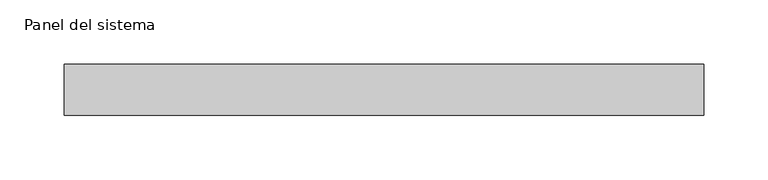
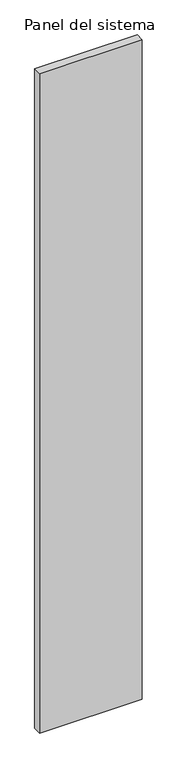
"""IFC4 building model written with IfcOpenShell, lengths in millimetres: plate geometry, Panel del sistema : HIANSA PANEL - PANELES DE CUBIERTA CON TAPAJUNTA - AGRO 3GR - Esp. 40mm."""

from ifc_helpers import new_model, si_unit, origin, origin_with_axes, place, context, project, spatial, polyline, outline, extrude, source, transform, mapped, element, save


def panel_del_sistema_48dafe26(model_context):
    return source(origin(), model_context, "Body", "SweptSolid", [
        extrude(outline(polyline([(249.9999998, 0.0), (-249.9999998, 0.0), (-249.9999998, 40.0), (249.9999998, 40.0), (249.9999998, 0.0)])), origin_with_axes(), (0.0, 0.0, 1.0), 3390.8509027),
    ])


if __name__ == "__main__":
    model = new_model("IFC4")
    model_context = context("Model", 3, world=origin())
    ifc_project = project(units=[si_unit("LENGTHUNIT", "METRE", prefix="MILLI")], contexts=[model_context])
    site = spatial("IfcSite", under=ifc_project)
    building = spatial("IfcBuilding", under=site)
    placement = place(None, origin())
    panel_del_sistema_shape = panel_del_sistema_48dafe26(model_context)
    element("IfcPlate", 1, ObjectType="Panel del sistema : HIANSA PANEL - PANELES DE CUBIERTA CON TAPAJUNTA - AGRO 3GR - Esp. 40mm", at=placement, inside=building, context=model_context, shape_type="MappedRepresentation", body=[
        mapped(panel_del_sistema_shape, transform((0.0, 0.0, 0.0), x_axis=(1.0, 0.0, 0.0), y_axis=(0.0, 1.0, 0.0), z_axis=(0.0, 0.0, 1.0))),
    ])
    save(model, "model.ifc")
